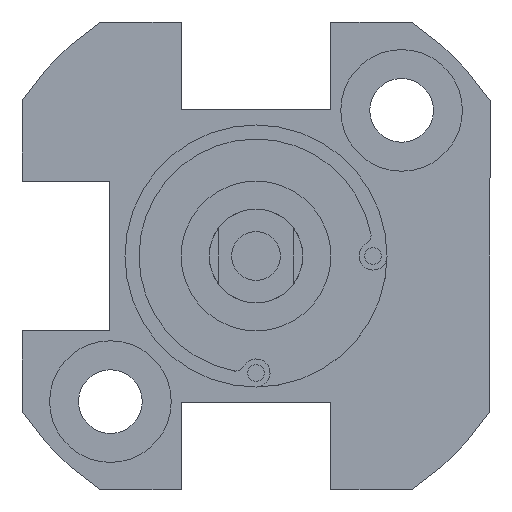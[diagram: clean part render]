
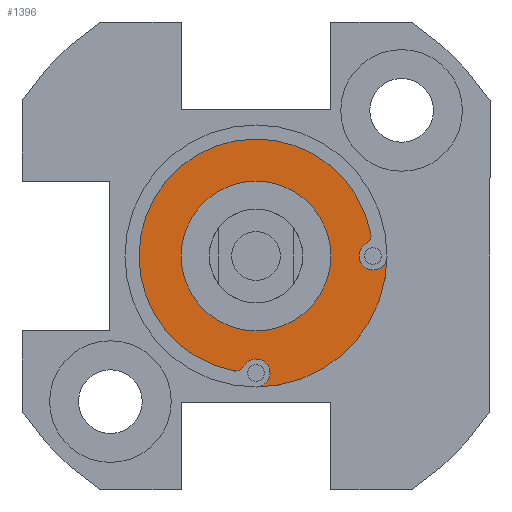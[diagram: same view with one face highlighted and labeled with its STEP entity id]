
A CAD part, front view. The second image highlights one B-rep face of the part: STEP entity #1396.
In plain terms, the highlighted planar face has unit normal (0, -1, 0).
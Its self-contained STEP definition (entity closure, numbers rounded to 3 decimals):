
#14 = CIRCLE ( 'NONE', #2277, 7. ) ;
#107 = AXIS2_PLACEMENT_3D ( 'NONE', #2830, #2853, #1354 ) ;
#156 = EDGE_CURVE ( 'NONE', #425, #3193, #2311, .T. ) ;
#260 = CIRCLE ( 'NONE', #816, 0.5 ) ;
#289 = EDGE_CURVE ( 'NONE', #2222, #1717, #14, .T. ) ;
#294 = CARTESIAN_POINT ( 'NONE',  ( 0., -45., -7. ) ) ;
#308 = DIRECTION ( 'NONE',  ( 0., 1., 0. ) ) ;
#384 = ORIENTED_EDGE ( 'NONE', *, *, #289, .F. ) ;
#389 = CARTESIAN_POINT ( 'NONE',  ( 0., -45., 0. ) ) ;
#418 = CIRCLE ( 'NONE', #1810, 0.75 ) ;
#425 = VERTEX_POINT ( 'NONE', #3191 ) ;
#488 = DIRECTION ( 'NONE',  ( 0., 0., 1. ) ) ;
#503 = CARTESIAN_POINT ( 'NONE',  ( 0., -45., 0. ) ) ;
#522 = DIRECTION ( 'NONE',  ( 0., -1., 0. ) ) ;
#558 = CARTESIAN_POINT ( 'NONE',  ( -1.094, -45., -5.645 ) ) ;
#572 = CIRCLE ( 'NONE', #107, 0.75 ) ;
#591 = ORIENTED_EDGE ( 'NONE', *, *, #1935, .F. ) ;
#618 = EDGE_CURVE ( 'NONE', #1753, #619, #418, .T. ) ;
#619 = VERTEX_POINT ( 'NONE', #2313 ) ;
#706 = PLANE ( 'NONE',  #3046 ) ;
#716 = VERTEX_POINT ( 'NONE', #782 ) ;
#732 = CARTESIAN_POINT ( 'NONE',  ( 6.136, -45., 1.189 ) ) ;
#770 = EDGE_CURVE ( 'NONE', #619, #2545, #2725, .T. ) ;
#771 = CIRCLE ( 'NONE', #2631, 6.25 ) ;
#782 = CARTESIAN_POINT ( 'NONE',  ( -0.656, -45., -5.887 ) ) ;
#816 = AXIS2_PLACEMENT_3D ( 'NONE', #558, #2039, #1553 ) ;
#826 = ORIENTED_EDGE ( 'NONE', *, *, #2504, .T. ) ;
#883 = FACE_OUTER_BOUND ( 'NONE', #1177, .T. ) ;
#961 = FACE_BOUND ( 'NONE', #2361, .T. ) ;
#976 = ORIENTED_EDGE ( 'NONE', *, *, #1575, .T. ) ;
#1048 = DIRECTION ( 'NONE',  ( 0., 1., 0. ) ) ;
#1082 = CARTESIAN_POINT ( 'NONE',  ( 6.25, -45., 0. ) ) ;
#1116 = EDGE_CURVE ( 'NONE', #3193, #425, #3219, .T. ) ;
#1177 = EDGE_LOOP ( 'NONE', ( #1862, #2309, #2378, #591, #976, #826, #2740, #384 ) ) ;
#1181 = VERTEX_POINT ( 'NONE', #2893 ) ;
#1239 = CARTESIAN_POINT ( 'NONE',  ( 0., -45., 0. ) ) ;
#1283 = CARTESIAN_POINT ( 'NONE',  ( 0., -45., -6.25 ) ) ;
#1293 = AXIS2_PLACEMENT_3D ( 'NONE', #1990, #522, #3009 ) ;
#1315 = CARTESIAN_POINT ( 'NONE',  ( -1.094, -45., -6.145 ) ) ;
#1316 = CARTESIAN_POINT ( 'NONE',  ( 6.25, -45., -0.75 ) ) ;
#1322 = DIRECTION ( 'NONE',  ( 0., 1., 0. ) ) ;
#1354 = DIRECTION ( 'NONE',  ( 0., 0., 1. ) ) ;
#1373 = CARTESIAN_POINT ( 'NONE',  ( 5.645, -45., 1.094 ) ) ;
#1396 = ADVANCED_FACE ( 'NONE', ( #883, #961 ), #706, .T. ) ;
#1553 = DIRECTION ( 'NONE',  ( 0., 0., -1. ) ) ;
#1575 = EDGE_CURVE ( 'NONE', #1181, #1579, #260, .T. ) ;
#1579 = VERTEX_POINT ( 'NONE', #1315 ) ;
#1643 = ORIENTED_EDGE ( 'NONE', *, *, #156, .T. ) ;
#1717 = VERTEX_POINT ( 'NONE', #294 ) ;
#1743 = CARTESIAN_POINT ( 'NONE',  ( 0., -45., 0. ) ) ;
#1753 = VERTEX_POINT ( 'NONE', #1316 ) ;
#1767 = DIRECTION ( 'NONE',  ( 0., 0., 1. ) ) ;
#1794 = ORIENTED_EDGE ( 'NONE', *, *, #1116, .T. ) ;
#1810 = AXIS2_PLACEMENT_3D ( 'NONE', #1082, #1322, #2077 ) ;
#1813 = AXIS2_PLACEMENT_3D ( 'NONE', #389, #1881, #3136 ) ;
#1829 = AXIS2_PLACEMENT_3D ( 'NONE', #1743, #1048, #1767 ) ;
#1862 = ORIENTED_EDGE ( 'NONE', *, *, #2742, .T. ) ;
#1881 = DIRECTION ( 'NONE',  ( 0., 1., 0. ) ) ;
#1935 = EDGE_CURVE ( 'NONE', #1181, #2545, #771, .T. ) ;
#1956 = DIRECTION ( 'NONE',  ( 0., 0., 1. ) ) ;
#1966 = DIRECTION ( 'NONE',  ( 0., -1., 0. ) ) ;
#1990 = CARTESIAN_POINT ( 'NONE',  ( -1.094, -45., -5.645 ) ) ;
#2009 = CIRCLE ( 'NONE', #1293, 0.5 ) ;
#2014 = CARTESIAN_POINT ( 'NONE',  ( 0., -45., 4. ) ) ;
#2039 = DIRECTION ( 'NONE',  ( 0., -1., 0. ) ) ;
#2077 = DIRECTION ( 'NONE',  ( 0., 0., 1. ) ) ;
#2092 = DIRECTION ( 'NONE',  ( 0., 0., -1. ) ) ;
#2163 = DIRECTION ( 'NONE',  ( 0., 1., 0. ) ) ;
#2222 = VERTEX_POINT ( 'NONE', #2991 ) ;
#2277 = AXIS2_PLACEMENT_3D ( 'NONE', #503, #2509, #488 ) ;
#2309 = ORIENTED_EDGE ( 'NONE', *, *, #618, .T. ) ;
#2311 = CIRCLE ( 'NONE', #1829, 4. ) ;
#2313 = CARTESIAN_POINT ( 'NONE',  ( 5.887, -45., 0.656 ) ) ;
#2314 = AXIS2_PLACEMENT_3D ( 'NONE', #1373, #2858, #2092 ) ;
#2361 = EDGE_LOOP ( 'NONE', ( #1643, #1794 ) ) ;
#2378 = ORIENTED_EDGE ( 'NONE', *, *, #770, .T. ) ;
#2450 = DIRECTION ( 'NONE',  ( 0., 0., 1. ) ) ;
#2504 = EDGE_CURVE ( 'NONE', #1579, #716, #2009, .T. ) ;
#2508 = AXIS2_PLACEMENT_3D ( 'NONE', #1283, #308, #3016 ) ;
#2509 = DIRECTION ( 'NONE',  ( 0., 1., 0. ) ) ;
#2545 = VERTEX_POINT ( 'NONE', #732 ) ;
#2631 = AXIS2_PLACEMENT_3D ( 'NONE', #1239, #2163, #1956 ) ;
#2725 = CIRCLE ( 'NONE', #2314, 0.5 ) ;
#2740 = ORIENTED_EDGE ( 'NONE', *, *, #3195, .T. ) ;
#2742 = EDGE_CURVE ( 'NONE', #2222, #1753, #572, .T. ) ;
#2830 = CARTESIAN_POINT ( 'NONE',  ( 6.25, -45., 0. ) ) ;
#2853 = DIRECTION ( 'NONE',  ( 0., 1., 0. ) ) ;
#2858 = DIRECTION ( 'NONE',  ( 0., -1., 0. ) ) ;
#2893 = CARTESIAN_POINT ( 'NONE',  ( -1.189, -45., -6.136 ) ) ;
#2991 = CARTESIAN_POINT ( 'NONE',  ( 7., -45., 0. ) ) ;
#3009 = DIRECTION ( 'NONE',  ( 0., 0., -1. ) ) ;
#3016 = DIRECTION ( 'NONE',  ( 0., 0., 1. ) ) ;
#3020 = CIRCLE ( 'NONE', #2508, 0.75 ) ;
#3046 = AXIS2_PLACEMENT_3D ( 'NONE', #3213, #1966, #2450 ) ;
#3136 = DIRECTION ( 'NONE',  ( 0., 0., 1. ) ) ;
#3191 = CARTESIAN_POINT ( 'NONE',  ( 0., -45., -4. ) ) ;
#3193 = VERTEX_POINT ( 'NONE', #2014 ) ;
#3195 = EDGE_CURVE ( 'NONE', #716, #1717, #3020, .T. ) ;
#3213 = CARTESIAN_POINT ( 'NONE',  ( 0., -45., 0. ) ) ;
#3219 = CIRCLE ( 'NONE', #1813, 4. ) ;
